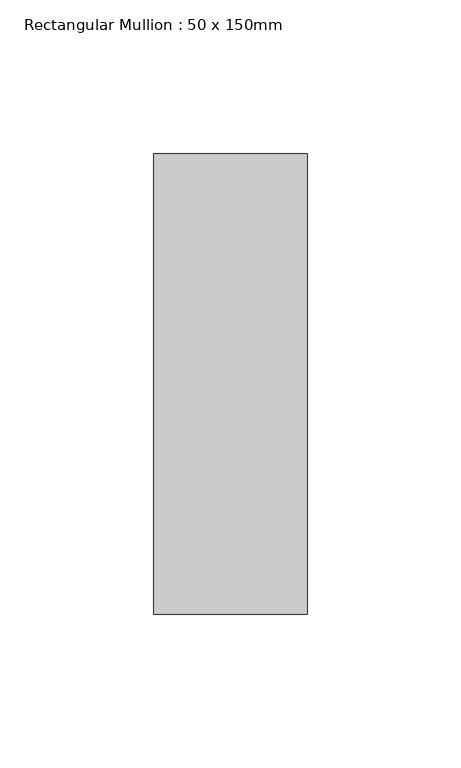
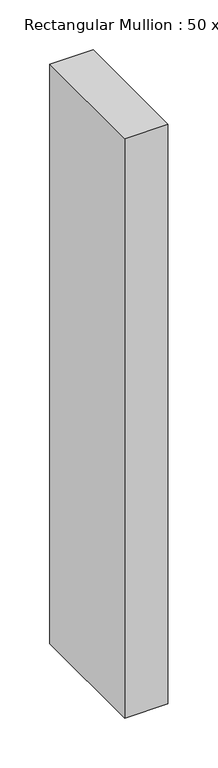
"""IFC4 building model written with IfcOpenShell, lengths in millimetres: member geometry, Rectangular Mullion : 50 x 150mm."""

from ifc_helpers import new_model, si_unit, frame, origin, place, context, project, spatial, polyline, outline, extrude, source, transform, mapped, element, save


def rectangular_mullion_50_x_150mm_29e254ca(model_context):
    return source(origin(), model_context, "Body", "SweptSolid", [
        extrude(outline(polyline([(0.0, 75.0), (0.0, -75.0), (-50.0, -75.0), (-50.0, 75.0), (0.0, 75.0)])), frame((0.0, 0.0, -709.1666669), z_axis=(0.0, 0.0, 1.0), x_axis=(1.0, 0.0, 0.0)), (0.0, 0.0, 1.0), 709.1666669),
    ])


if __name__ == "__main__":
    model = new_model("IFC4")
    model_context = context("Model", 3, world=origin())
    ifc_project = project(units=[si_unit("LENGTHUNIT", "METRE", prefix="MILLI")], contexts=[model_context])
    site = spatial("IfcSite", under=ifc_project)
    building = spatial("IfcBuilding", under=site)
    placement = place(None, origin())
    rectangular_mullion_50_x_150mm_shape = rectangular_mullion_50_x_150mm_29e254ca(model_context)
    element("IfcMember", 1, ObjectType="Rectangular Mullion : 50 x 150mm", at=placement, inside=building, context=model_context, shape_type="MappedRepresentation", body=[
        mapped(rectangular_mullion_50_x_150mm_shape, transform((0.0, 0.0, 0.0), x_axis=(1.0, 0.0, 0.0), y_axis=(0.0, 1.0, 0.0), z_axis=(0.0, 0.0, 1.0))),
    ])
    save(model, "model.ifc")
